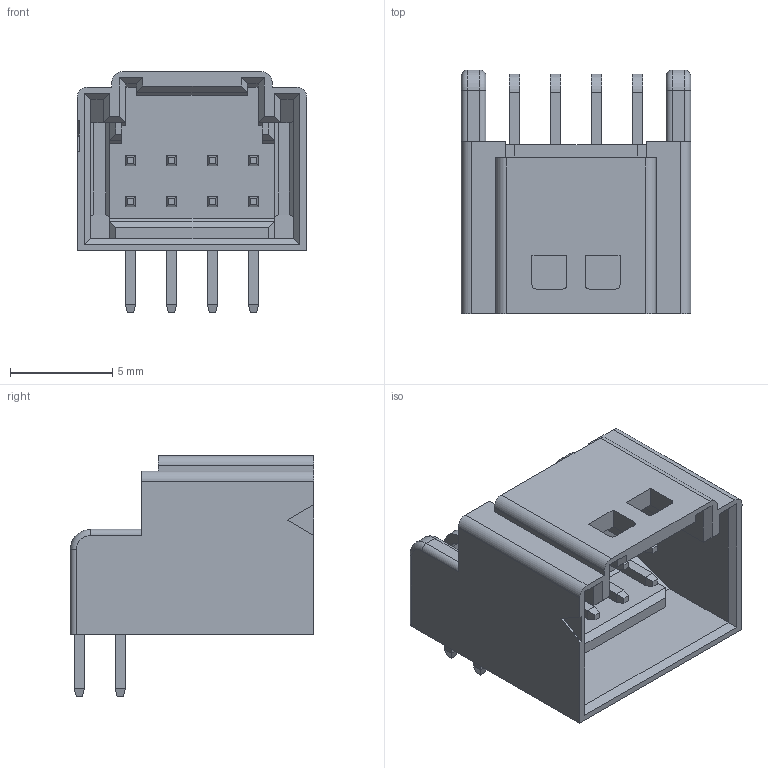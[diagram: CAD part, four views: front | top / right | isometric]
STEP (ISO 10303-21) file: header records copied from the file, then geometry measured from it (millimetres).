
FILE_DESCRIPTION(('Creo Elements/Direct Modeling STEP Export'),'2;1');
FILE_NAME('DF51K-8DP-2DS.stp','2018-10-01T10:41:35',(''),(''),'PTC Creo Elements/Direct Modeling STEP processor for AP214 (Solid Model)','PTC Creo Elements/Direct Modeling 19.0C 15-Aug-2015 (C) Parametric Technology GmbH','');
FILE_SCHEMA(('AUTOMOTIVE_DESIGN { 1 0 10303 214 1 1 1 1 }'));
Length unit declared in the file: millimetre
Products named in the file (2): DF51K-8DP-2DS
Assembly tree (1 placements, depth 2):
  DF51K-8DP-2DS
    DF51K-8DP-2DS
Bounding box: 11.2 x 11.9 x 11.75 mm (x, y, z)
Volume: 415.9 mm3; surface area: 1060.8 mm2
Topology: 1 solids, 1 shells, 309 faces, 776 edges, 486 vertices
Faces by surface type: plane 271, cylinder 34, torus 4
Entity records: 8751 total; most frequent: ORIENTED_EDGE 1552, CARTESIAN_POINT 1508, DIRECTION 1373, EDGE_CURVE 776, VECTOR 671, LINE 671, VERTEX_POINT 486, AXIS2_PLACEMENT_3D 351
